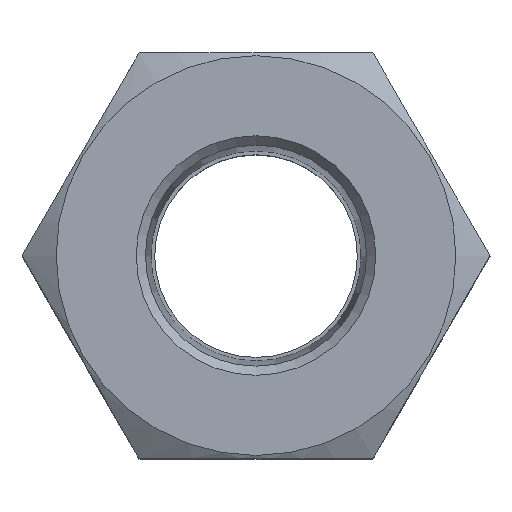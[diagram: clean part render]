
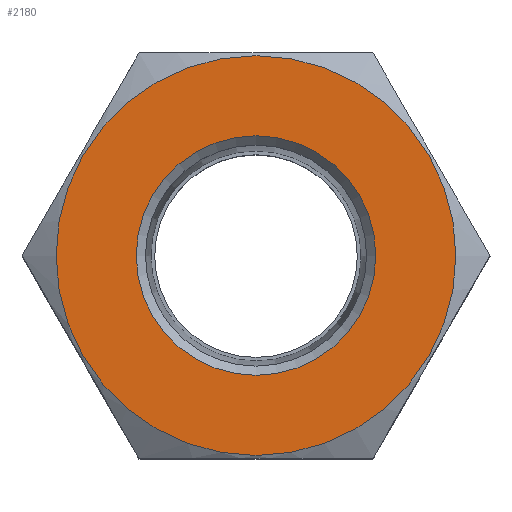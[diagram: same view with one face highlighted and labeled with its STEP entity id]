
A CAD part, top view. The second image highlights one B-rep face of the part: STEP entity #2180.
In plain terms, the highlighted planar face has unit normal (0, 0, 1).
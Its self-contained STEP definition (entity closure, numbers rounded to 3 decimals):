
#2180=ADVANCED_FACE('', (#2190,#2200), #2210, .T.);
#7370=AXIS2_PLACEMENT_3D('Ax2Pl3d', #7380, #7390, #7400);
#7490=AXIS2_PLACEMENT_3D('Ax2Pl3d', #7500, #7510, #7520);
#7530=AXIS2_PLACEMENT_3D('Ax2Pl3d', #7540, #7550, #7560);
#7380=CARTESIAN_POINT('HicPkt', (28.698,21.517,51.787));
#11790=CARTESIAN_POINT('', (28.698,10.667,51.787));
#7500=CARTESIAN_POINT('HicPkt', (39.548,21.517,51.787))
;
#7540=CARTESIAN_POINT('HicPkt', (28.698,21.517,51.787));
#11810=CARTESIAN_POINT('', (28.698,28.017,51.787));
#12430=CIRCLE('Circle', #7370, 10.85);
#12450=CIRCLE('Circle', #7530, 6.5);
#7390=DIRECTION('Axis', (0.,0.,-1.));
#7400=DIRECTION('RefDirection', (-1.,-0.,0.));
#7510=DIRECTION('Axis', (0.,0.,1.));
#7520=DIRECTION('RefDirection', (1.,0.,-0.));
#7550=DIRECTION('Axis', (0.,0.,-1.));
#7560=DIRECTION('RefDirection', (-1.,-0.,0.));
#18160=EDGE_CURVE('', #18170, #18170, #12430, .T.);
#18200=EDGE_CURVE('', #18210, #18210, #12450, .T.);
#21220=EDGE_LOOP('Edge_loop', (#21230));
#21240=EDGE_LOOP('Edge_loop', (#21250));
#2200=FACE_BOUND('', #21240, .T.);
#2190=FACE_OUTER_BOUND('Face_outer_bound', #21220, .T.);
#21230=ORIENTED_EDGE('', *, *, #18160, .F.);
#21250=ORIENTED_EDGE('', *, *, #18200, .T.);
#2210=PLANE('Plane', #7490);
#18170=VERTEX_POINT('', #11790);
#18210=VERTEX_POINT('', #11810);
